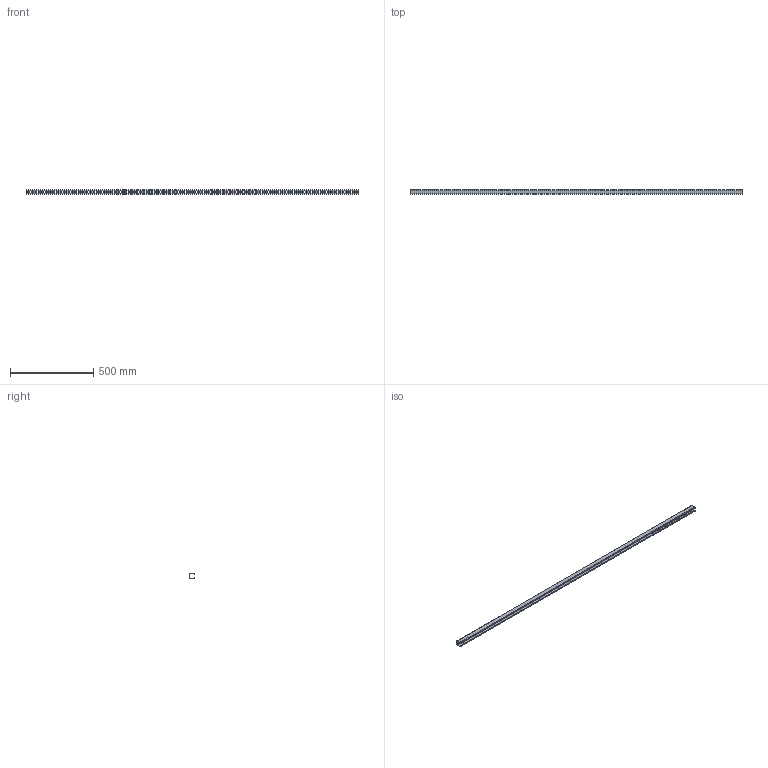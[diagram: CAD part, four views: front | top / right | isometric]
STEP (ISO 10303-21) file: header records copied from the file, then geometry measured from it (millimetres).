
FILE_DESCRIPTION (( 'STEP AP203' ), '1' );
FILE_NAME ('3D_R6410 x2000_173481500.STEP', '2024-08-26T07:52:33', ( '' ), ( '' ), 'SwSTEP 2.0', 'SolidWorks 2024', '' );
FILE_SCHEMA (( 'CONFIG_CONTROL_DESIGN' ));
Length unit declared in the file: millimetre
Products named in the file (1): 3D_R6410 x2000_173481500
Bounding box: 2000 x 30 x 30 mm (x, y, z)
Volume: 343840.9 mm3; surface area: 360210.7 mm2
Topology: 1 solids, 1 shells, 482 faces, 1440 edges, 960 vertices
Faces by surface type: cylinder 268, plane 214
Entity records: 16797 total; most frequent: DIRECTION 2942, CARTESIAN_POINT 2883, ORIENTED_EDGE 2880, EDGE_CURVE 1440, AXIS2_PLACEMENT_3D 1019, VERTEX_POINT 960, VECTOR 904, LINE 904
